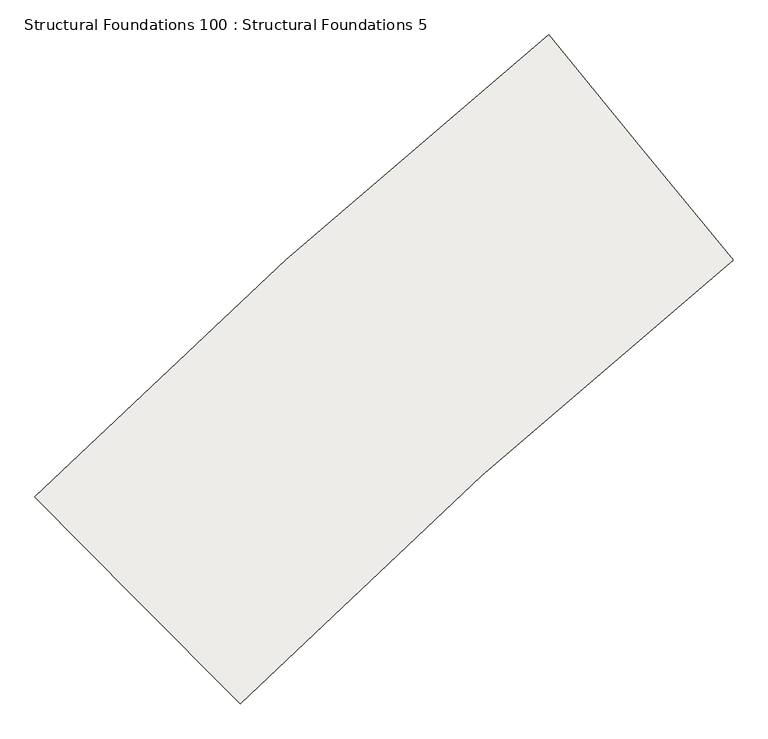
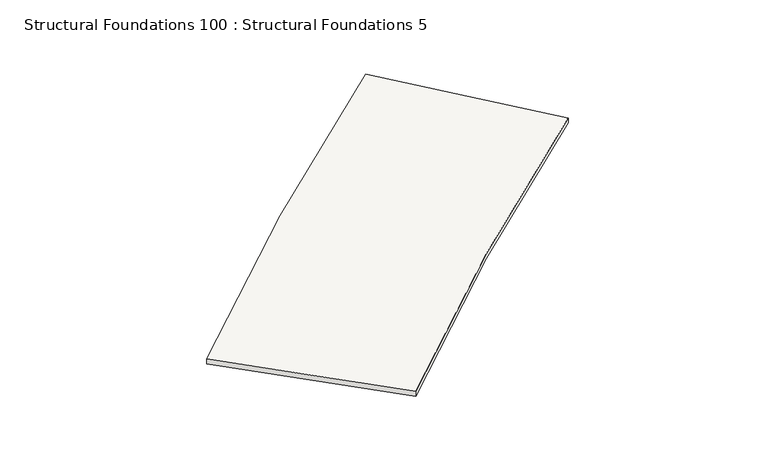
"""IFC4 building model written with IfcOpenShell, lengths in millimetres: slab geometry, Structural Foundations 100 : Structural Foundations 5."""

from ifc_helpers import new_model, si_unit, frame, origin, place, context, project, spatial, source, transform, mapped, element, save
from ifc_brep_helpers import plane_surface, spline_curve, spline_surface, advanced_brep


def structural_foundations_100_structural_foundations_5_cd2685d7(model_context):
    return source(origin(), model_context, "Body", "AdvancedBrep", [
        advanced_brep(
        [(-324309.6432247, -474519.7460651, 633740.0), (-324309.6432247, -474519.7460651, 633640.0), (-326650.0191945, -471653.9756068, 633640.0), (-326650.0191945, -471653.9756068, 633740.0), (-330573.2917694, -480155.8557869, 633640.0), (-333179.3345034, -477529.3490184, 633640.0), (-333179.3345034, -477529.3490184, 633540.0), (-330573.2917694, -480155.8557869, 633540.0)],
        [
            (0, 1),
            (1, 2),
            (2, 3),
            (3, 0),
            (4, 5),
            (5, 6),
            (6, 7),
            (7, 4),
            (4, 0, spline_curve(3, [(-330573.2917694, -480155.8557869, 633640.0), (-329575.574253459, -479166.787206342, 633656.666666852), (-328553.944136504, -478201.829920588, 633673.333333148), (-326465.241559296, -476322.388991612, 633706.666666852), (-325398.169099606, -475407.905348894, 633723.333333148), (-324309.6432247, -474519.7460651, 633740.0)], [4, 2, 4], [0.0, 14.120608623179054, 28.241217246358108])),
            (3, 5, spline_curve(3, [(-326650.0191945, -471653.9756068, 633740.0), (-327784.728005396, -472579.851003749, 633723.333333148), (-328897.048629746, -473533.14765673, 633706.666666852), (-331074.332283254, -475492.36635307, 633673.333333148), (-332139.295311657, -476498.288395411, 633656.666666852), (-333179.3345034, -477529.3490184, 633640.0)], [4, 2, 4], [0.0, 14.120608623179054, 28.241217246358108])),
            (7, 1, spline_curve(3, [(-330573.2917694, -480155.8557869, 633540.0), (-329575.574253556, -479166.787206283, 633556.666666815), (-328553.944136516, -478201.829920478, 633573.333333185), (-326465.241559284, -476322.388991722, 633606.666666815), (-325398.169099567, -475407.905348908, 633623.333333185), (-324309.6432247, -474519.7460651, 633640.0)], [4, 2, 4], [0.0, 13.827296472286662, 27.654592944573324])),
            (6, 2, spline_curve(3, [(-333179.3345034, -477529.3490184, 633540.0), (-332139.295311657, -476498.288395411, 633556.666666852), (-331074.332283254, -475492.36635307, 633573.333333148), (-328897.048629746, -473533.14765673, 633606.666666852), (-327784.728005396, -472579.851003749, 633623.333333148), (-326650.0191945, -471653.9756068, 633640.0)], [4, 2, 4], [0.0, 14.120608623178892, 28.241217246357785])),
        ],
        [
            plane_surface(frame((-325479.8312096, -473086.8608359, 633690.0), z_axis=(0.7745325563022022, 0.6325340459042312, 0.0), x_axis=(0.6325340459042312, -0.7745325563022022, 0.0))),
            plane_surface(frame((-331876.3131364, -478842.6024027, 633590.0), z_axis=(-0.7098667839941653, -0.7043359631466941, 0.0), x_axis=(0.0, 0.0, -1.0))),
            spline_surface(3, 3, [[(-333179.3345034, -477529.3490184, 633640.0), (-332139.295311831, -476498.28839546, 633656.666666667), (-331074.33228305, -475492.366352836, 633673.333333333), (-328897.04862995, -473533.147656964, 633706.666666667), (-327784.728005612, -472579.851003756, 633723.333333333), (-326650.0191945, -471653.9756068, 633740.0)], [(-332744.994047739, -477967.100146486, 633640.0), (-331712.008468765, -476943.03819729, 633656.666666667), (-330654.266293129, -475943.942481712, 633673.333333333), (-328491.748750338, -473998.02234515, 633706.666666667), (-327386.968187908, -473051.1933946, 633723.333333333), (-326259.956532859, -472131.60401652, 633740.0)], [(-332310.653592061, -478404.851274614, 633640.0), (-331284.721625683, -477387.787999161, 633656.666666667), (-330234.204199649, -476395.522007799, 633673.333333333), (-328086.444974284, -474462.893636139, 633706.666666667), (-326989.208370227, -473522.535785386, 633723.333333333), (-325869.893871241, -472609.23242618, 633740.0)], [(-331441.972680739, -479280.353530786, 633640.0), (-330430.14793955, -478277.28760282, 633656.666666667), (-329394.072219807, -477298.674265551, 633673.333333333), (-327275.84521506, -475392.643012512, 633706.666666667), (-326193.688734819, -474465.220567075, 633723.333333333), (-325089.768547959, -473564.48924562, 633740.0)], [(-331007.632225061, -479718.104658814, 633640.0), (-330002.861096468, -478722.037404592, 633656.666666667), (-328974.010126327, -477750.253791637, 633673.333333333), (-326870.541439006, -475857.5143035, 633706.666666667), (-325795.928917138, -474936.562957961, 633723.333333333), (-324699.705886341, -474042.11765538, 633740.0)], [(-330573.2917694, -480155.8557869, 633640.0), (-329575.574253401, -479166.787206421, 633656.666666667), (-328553.944136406, -478201.829920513, 633673.333333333), (-326465.241559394, -476322.388991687, 633706.666666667), (-325398.169099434, -475407.905348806, 633723.333333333), (-324309.6432247, -474519.7460651, 633740.0)]], [4, 2, 4], [4, 2, 4], [0.0, 6.069553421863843, 12.139106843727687], [0.0, 14.120608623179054, 28.241217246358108]),
            spline_surface(3, 3, [[(-330573.2917694, -480155.8557869, 633640.0), (-329575.574253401, -479166.787206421, 633656.666666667), (-328553.944136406, -478201.829920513, 633673.333333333), (-326465.241559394, -476322.388991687, 633706.666666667), (-325398.169099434, -475407.905348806, 633723.333333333), (-324309.6432247, -474519.7460651, 633740.0)], [(-330573.2917694, -480155.8557869, 633623.333333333), (-329575.574253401, -479166.787206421, 633640.0), (-328553.944136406, -478201.829920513, 633656.666666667), (-326465.241559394, -476322.388991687, 633690.0), (-325398.169099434, -475407.905348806, 633706.666666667), (-324309.6432247, -474519.7460651, 633723.333333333)], [(-330573.2917694, -480155.8557869, 633606.666666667), (-329575.574253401, -479166.787206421, 633623.333333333), (-328553.944136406, -478201.829920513, 633640.0), (-326465.241559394, -476322.388991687, 633673.333333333), (-325398.169099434, -475407.905348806, 633690.0), (-324309.6432247, -474519.7460651, 633706.666666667)], [(-330573.2917694, -480155.8557869, 633573.333333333), (-329575.574253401, -479166.787206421, 633590.0), (-328553.944136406, -478201.829920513, 633606.666666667), (-326465.241559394, -476322.388991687, 633640.0), (-325398.169099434, -475407.905348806, 633656.666666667), (-324309.6432247, -474519.7460651, 633673.333333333)], [(-330573.2917694, -480155.8557869, 633556.666666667), (-329575.574253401, -479166.787206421, 633573.333333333), (-328553.944136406, -478201.829920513, 633590.0), (-326465.241559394, -476322.388991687, 633623.333333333), (-325398.169099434, -475407.905348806, 633640.0), (-324309.6432247, -474519.7460651, 633656.666666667)], [(-330573.2917694, -480155.8557869, 633540.0), (-329575.574253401, -479166.787206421, 633556.666666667), (-328553.944136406, -478201.829920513, 633573.333333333), (-326465.241559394, -476322.388991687, 633606.666666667), (-325398.169099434, -475407.905348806, 633623.333333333), (-324309.6432247, -474519.7460651, 633640.0)]], [4, 2, 4], [4, 2, 4], [0.0, 0.16404199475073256, 0.3280839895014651], [0.0, 13.827296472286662, 27.654592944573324]),
            spline_surface(3, 3, [[(-330573.2917694, -480155.8557869, 633540.0), (-329575.574253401, -479166.787206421, 633556.666666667), (-328553.944136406, -478201.829920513, 633573.333333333), (-326465.241559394, -476322.388991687, 633606.666666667), (-325398.169099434, -475407.905348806, 633623.333333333), (-324309.6432247, -474519.7460651, 633640.0)], [(-331007.632225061, -479718.104658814, 633540.0), (-330002.861096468, -478722.037404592, 633556.666666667), (-328974.010126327, -477750.253791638, 633573.333333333), (-326870.541439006, -475857.5143035, 633606.666666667), (-325795.928917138, -474936.562957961, 633623.333333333), (-324699.705886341, -474042.11765538, 633640.0)], [(-331441.972680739, -479280.353530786, 633540.0), (-330430.14793955, -478277.28760282, 633556.666666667), (-329394.072219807, -477298.674265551, 633573.333333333), (-327275.84521506, -475392.643012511, 633606.666666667), (-326193.688734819, -474465.220567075, 633623.333333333), (-325089.768547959, -473564.48924562, 633640.0)], [(-332310.653592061, -478404.851274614, 633540.0), (-331284.721625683, -477387.787999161, 633556.666666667), (-330234.204199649, -476395.522007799, 633573.333333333), (-328086.444974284, -474462.893636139, 633606.666666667), (-326989.208370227, -473522.535785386, 633623.333333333), (-325869.893871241, -472609.23242618, 633640.0)], [(-332744.994047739, -477967.100146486, 633540.0), (-331712.008468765, -476943.03819729, 633556.666666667), (-330654.266293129, -475943.942481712, 633573.333333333), (-328491.748750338, -473998.02234515, 633606.666666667), (-327386.968187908, -473051.1933946, 633623.333333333), (-326259.956532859, -472131.60401652, 633640.0)], [(-333179.3345034, -477529.3490184, 633540.0), (-332139.295311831, -476498.28839546, 633556.666666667), (-331074.33228305, -475492.366352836, 633573.333333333), (-328897.04862995, -473533.147656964, 633606.666666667), (-327784.728005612, -472579.851003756, 633623.333333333), (-326650.0191945, -471653.9756068, 633640.0)]], [4, 2, 4], [4, 2, 4], [0.0, 6.069553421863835, 12.13910684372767], [0.0, 14.120608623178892, 28.241217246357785]),
            spline_surface(3, 3, [[(-333179.3345034, -477529.3490184, 633540.0), (-332139.295311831, -476498.28839546, 633556.666666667), (-331074.33228305, -475492.366352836, 633573.333333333), (-328897.04862995, -473533.147656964, 633606.666666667), (-327784.728005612, -472579.851003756, 633623.333333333), (-326650.0191945, -471653.9756068, 633640.0)], [(-333179.3345034, -477529.3490184, 633556.666666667), (-332139.295311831, -476498.28839546, 633573.333333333), (-331074.33228305, -475492.366352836, 633590.0), (-328897.04862995, -473533.147656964, 633623.333333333), (-327784.728005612, -472579.851003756, 633640.0), (-326650.0191945, -471653.9756068, 633656.666666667)], [(-333179.3345034, -477529.3490184, 633573.333333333), (-332139.295311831, -476498.28839546, 633590.0), (-331074.33228305, -475492.366352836, 633606.666666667), (-328897.04862995, -473533.147656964, 633640.0), (-327784.728005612, -472579.851003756, 633656.666666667), (-326650.0191945, -471653.9756068, 633673.333333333)], [(-333179.3345034, -477529.3490184, 633606.666666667), (-332139.295311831, -476498.28839546, 633623.333333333), (-331074.33228305, -475492.366352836, 633640.0), (-328897.04862995, -473533.147656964, 633673.333333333), (-327784.728005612, -472579.851003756, 633690.0), (-326650.0191945, -471653.9756068, 633706.666666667)], [(-333179.3345034, -477529.3490184, 633623.333333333), (-332139.295311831, -476498.28839546, 633640.0), (-331074.33228305, -475492.366352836, 633656.666666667), (-328897.04862995, -473533.147656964, 633690.0), (-327784.728005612, -472579.851003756, 633706.666666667), (-326650.0191945, -471653.9756068, 633723.333333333)], [(-333179.3345034, -477529.3490184, 633640.0), (-332139.295311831, -476498.28839546, 633656.666666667), (-331074.33228305, -475492.366352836, 633673.333333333), (-328897.04862995, -473533.147656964, 633706.666666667), (-327784.728005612, -472579.851003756, 633723.333333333), (-326650.0191945, -471653.9756068, 633740.0)]], [4, 2, 4], [4, 2, 4], [0.0, 0.16404199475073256, 0.3280839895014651], [0.0, 14.413921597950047, 28.827843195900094]),
        ],
        [
            (0, [[1, 2, 3, 4]]),
            (1, [[5, 6, 7, 8]]),
            (2, [[-5, 9, -4, 10]]),
            (3, [[-8, 11, -1, -9]]),
            (4, [[-7, 12, -2, -11]]),
            (5, [[-6, -10, -3, -12]]),
        ],
    ),
    ])


if __name__ == "__main__":
    model = new_model("IFC4")
    model_context = context("Model", 3, world=origin())
    ifc_project = project(units=[si_unit("LENGTHUNIT", "METRE", prefix="MILLI")], contexts=[model_context])
    site = spatial("IfcSite", under=ifc_project)
    building = spatial("IfcBuilding", under=site)
    placement = place(None, origin())
    structural_foundations_100_structural_foundations_5_shape = structural_foundations_100_structural_foundations_5_cd2685d7(model_context)
    element("IfcSlab", 1, ObjectType="Structural Foundations 100 : Structural Foundations 5", at=placement, inside=building, context=model_context, shape_type="MappedRepresentation", body=[
        mapped(structural_foundations_100_structural_foundations_5_shape, transform((0.0, 0.0, 0.0), x_axis=(1.0, 0.0, 0.0), y_axis=(0.0, 1.0, 0.0), z_axis=(0.0, 0.0, 1.0))),
    ])
    save(model, "model.ifc")
